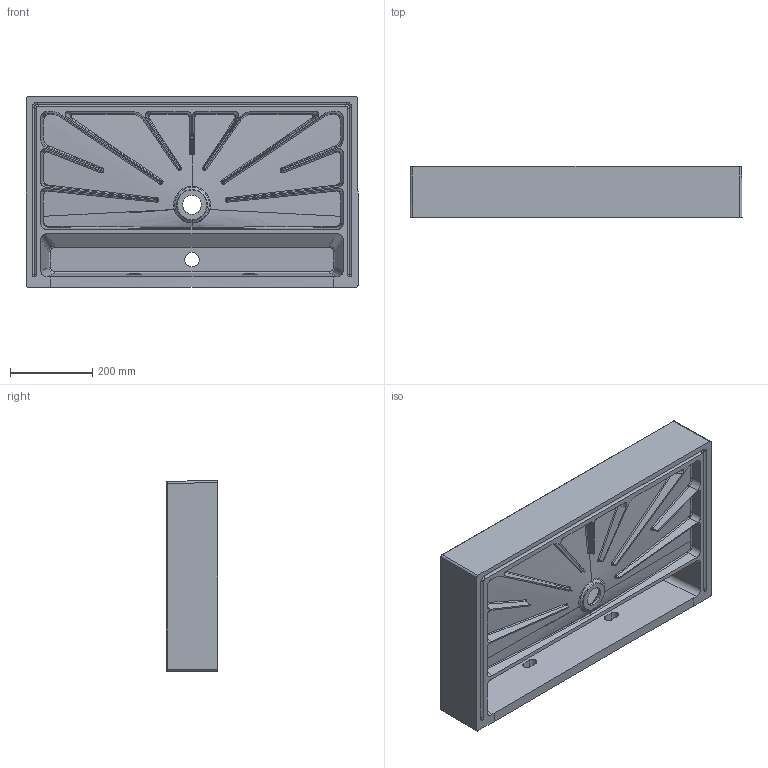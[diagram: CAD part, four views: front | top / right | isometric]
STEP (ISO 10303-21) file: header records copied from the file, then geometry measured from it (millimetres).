
FILE_DESCRIPTION (( 'STEP AP203' ), '1' );
FILE_NAME ('ELLP080450QM.STEP', '2019-01-21T17:26:03', ( '' ), ( '' ), 'SwSTEP 2.0', 'SolidWorks 2019', '' );
FILE_SCHEMA (( 'CONFIG_CONTROL_DESIGN' ));
Length unit declared in the file: millimetre
Products named in the file (1): ELLP080450QM
Bounding box: 805 x 125 x 462 mm (x, y, z)
Volume: 13047732.9 mm3; surface area: 1443255.1 mm2
Topology: 1 solids, 1 shells, 310 faces, 787 edges, 476 vertices
Faces by surface type: bspline 124, cylinder 97, plane 63, torus 12, sphere 8, cone 6
Entity records: 28747 total; most frequent: CARTESIAN_POINT 22391, ORIENTED_EDGE 1562, DIRECTION 1013, EDGE_CURVE 781, VERTEX_POINT 476, AXIS2_PLACEMENT_3D 388, EDGE_LOOP 321, ADVANCED_FACE 310
